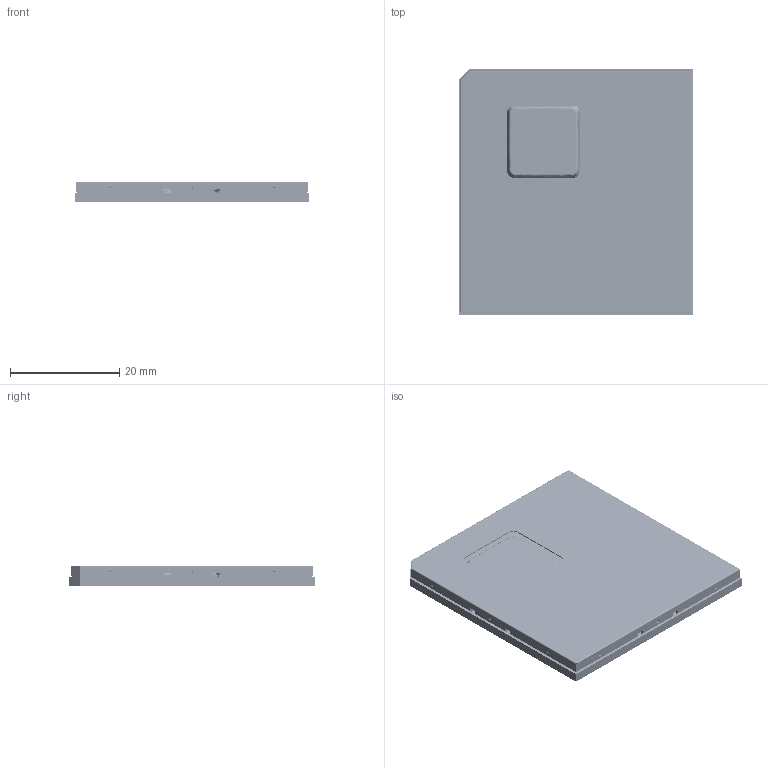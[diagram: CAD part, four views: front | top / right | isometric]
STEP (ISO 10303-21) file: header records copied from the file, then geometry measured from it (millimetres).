
FILE_DESCRIPTION((''),'2;1');
FILE_NAME('MYC-LT527_V10_ASM','2023-12-27T08:52:33',('89233'),(''),'CREO PARAMETRIC BY PTC INC, 2023073','CREO PARAMETRIC BY PTC INC, 2023073','');
FILE_SCHEMA(('AUTOMOTIVE_DESIGN { 1 0 10303 214 1 1 1 1 }'));
Products named in the file (446): MYC-LT527-BOARD; T527_6; FCBGA664_ASM; TPAD_020; PART_147_185_1; PART_147_57_1; PART_147_137_1; PART_147_190_1; PART_147_59_1; PART_147_10_1; PART_147_196_1; PART_147_68_1; PART_147_67_1; PART_147_119_1; PART_147_70_1; PART_147_28_1; PART_147_31_1; PART_147_124_1; PART_147_179_1; PART_147_174_1; PART_147_127_1; PART_147_13_1; PART_147_147_1; PART_147_100_1; PART_147_155_1; PART_147_188_1; PART_147_9_1; PART_147_152_1; PART_147_168_1; PART_147_91_1; PART_147_82_1; PART_147_182_1; PART_147_92_1; PART_147_36_1; PART_147_184_1; PART_147_43_1; PART_147_83_1; PART_147_97_1; PART_147_192_1; PART_147_103_1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
Assembly tree (776 placements, depth 8):
  MYC-LT527_V10_ASM
    MYC-LT527_V10_231208_1_ASM
      MYC-LT527-BOARD
      MYC-LT527-COMPONENTS_ASM
        FCBGA664_ASM
          T527_6
        TPAD_020  x29
        FBGA200_ASM
          FBGA200_ASM_1_ASM
            USER_LIBRARY-IS46LQ32128A-062BL_ASM
              PART_147_185_1
              PART_147_57_1
              PART_147_137_1
              PART_147_190_1
              PART_147_59_1
              PART_147_10_1
              PART_147_196_1
              PART_147_68_1
              PART_147_67_1
              PART_147_119_1
              PART_147_70_1
              PART_147_28_1
              PART_147_31_1
              PART_147_124_1
              PART_147_179_1
              PART_147_174_1
              PART_147_127_1
              PART_147_13_1
              PART_147_147_1
              PART_147_100_1
              PART_147_155_1
              PART_147_188_1
              PART_147_9_1
              PART_147_152_1
              PART_147_168_1
              PART_147_91_1
              PART_147_82_1
              PART_147_182_1
              PART_147_92_1
              PART_147_36_1
              PART_147_184_1
              PART_147_43_1
              PART_147_83_1
              PART_147_97_1
              PART_147_192_1
              PART_147_103_1
              PART_147_150_1
              PART_147_156_1
              PART_147_189_1
              PART_147_162_1
              PART_147_115_1
              PART_147_23_1
              PART_147_88_1
              PART_147_125_1
              PART_147_87_1
              PART_147_42_1
              PART_147_180_1
              PART_147_133_1
              PART_147_183_1
              PART_147_61_1
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Bounding box: 43 x 45 x 3.85 mm (x, y, z)
Surface area: 17709.8 mm2
Topology: 1315 solids, 1317 shells, 20045 faces, 68683 edges, 56296 vertices
Faces by surface type: plane 10777, cylinder 4490, sphere 3338, torus 762, bspline 638, extrusion 40
Entity records: 448285 total; most frequent: DIRECTION 66464, CARTESIAN_POINT 62975, ORIENTED_EDGE 25720, AXIS2_PLACEMENT_3D 25558, PRESENTATION_STYLE_ASSIGNMENT 23139, STYLED_ITEM 22955, CURVE_STYLE 22510, VECTOR 14044
